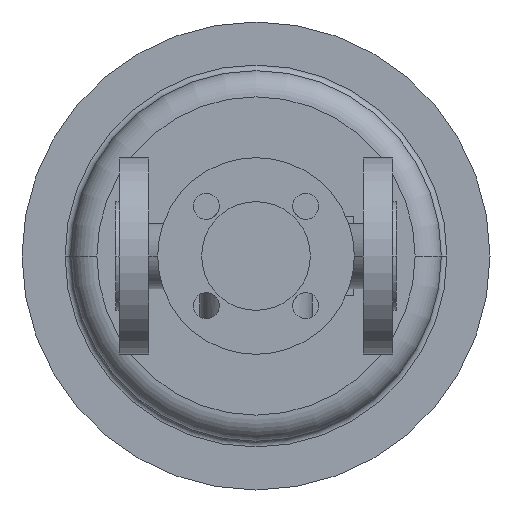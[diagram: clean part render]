
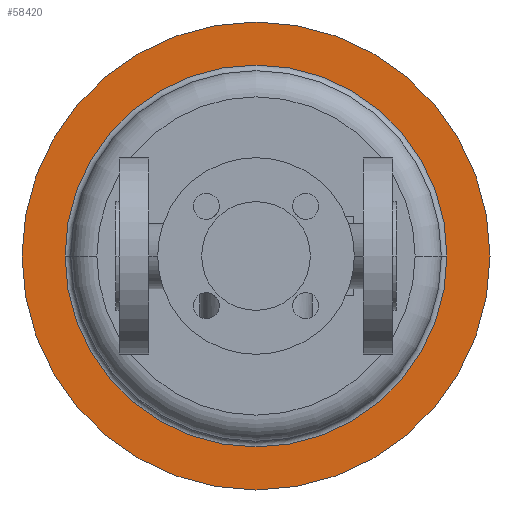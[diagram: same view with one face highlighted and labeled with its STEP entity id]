
A CAD part, front view. The second image highlights one B-rep face of the part: STEP entity #58420.
In plain terms, the highlighted planar face has unit normal (0, -1, 0).
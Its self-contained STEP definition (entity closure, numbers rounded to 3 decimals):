
#49850=CARTESIAN_POINT('',(-50.,568.,0.));
#49860=VERTEX_POINT('',#49850);
#49890=CARTESIAN_POINT('',(75.,568.,0.));
#49900=DIRECTION('',(0.,1.,0.));
#49910=DIRECTION('',(1.,0.,0.));
#49920=AXIS2_PLACEMENT_3D('',#49890,#49900,#49910);
#49930=CIRCLE('',#49920,125.);
#49940=CARTESIAN_POINT('',(200.,568.,0.));
#49950=VERTEX_POINT('',#49940);
#49960=EDGE_CURVE('',#49950,#49860,#49930,.T.);
#50280=CARTESIAN_POINT('',(177.,568.,0.));
#50290=VERTEX_POINT('',#50280);
#50320=CARTESIAN_POINT('',(75.,568.,0.));
#50330=DIRECTION('',(0.,1.,0.));
#50340=DIRECTION('',(1.,0.,0.));
#50350=AXIS2_PLACEMENT_3D('',#50320,#50330,#50340);
#50360=CIRCLE('',#50350,102.);
#50370=CARTESIAN_POINT('',(75.,568.,-102.));
#50380=VERTEX_POINT('',#50370);
#50390=EDGE_CURVE('',#50290,#50380,#50360,.T.);
#50410=CARTESIAN_POINT('',(-27.,568.,0.));
#50420=VERTEX_POINT('',#50410);
#50430=EDGE_CURVE('',#50380,#50420,#50360,.T.);
#58260=CARTESIAN_POINT('',(188.5,568.,0.));
#58270=DIRECTION('',(0.,-1.,0.));
#58280=DIRECTION('',(-1.,0.,0.));
#58290=AXIS2_PLACEMENT_3D('',#58260,#58270,#58280);
#58300=PLANE('',#58290);
#58310=ORIENTED_EDGE('',*,*,#49960,.F.);
#58320=EDGE_CURVE('',#49860,#49950,#49930,.T.);
#58330=ORIENTED_EDGE('',*,*,#58320,.F.);
#58340=EDGE_LOOP('',(#58330,#58310));
#58350=FACE_OUTER_BOUND('',#58340,.T.);
#58360=EDGE_CURVE('',#50420,#50290,#50360,.T.);
#58370=ORIENTED_EDGE('',*,*,#58360,.T.);
#58380=ORIENTED_EDGE('',*,*,#50430,.T.);
#58390=ORIENTED_EDGE('',*,*,#50390,.T.);
#58400=EDGE_LOOP('',(#58390,#58380,#58370));
#58410=FACE_BOUND('',#58400,.T.);
#58420=ADVANCED_FACE('',(#58350,#58410),#58300,.T.);
